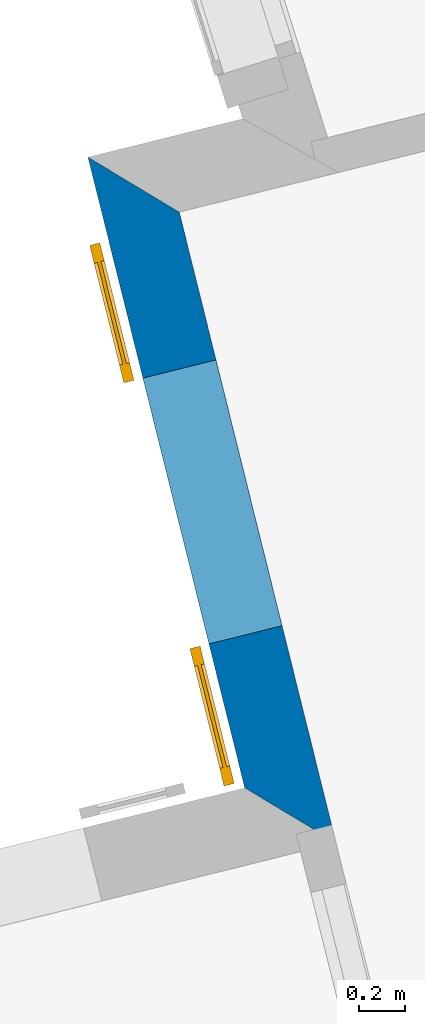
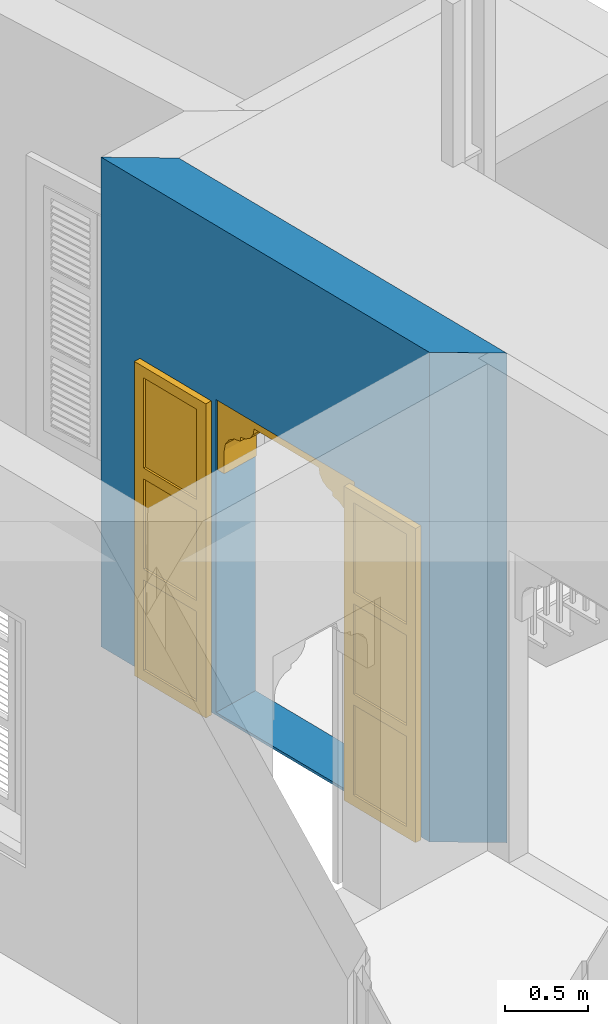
# One storey, part 6 of 14: 1 door, 1 wall, 1 opening.
"""IFC4 building model written with IfcOpenShell, lengths in metres."""

from ifc_helpers import new_model, si_unit, frame, origin, origin_with_axes, place, context, subcontext, project, spatial, polyline, outline, extrude, faceted_brep, source, transform, mapped, material, layer, layer_set, layer_usage, type_object, type_shapes, element, fill, save


model = new_model("IFC4")

# Units and contexts
model_context = context("Model", 3, world=origin_with_axes())
body_context = subcontext(model_context, "Body", "Model", "MODEL_VIEW")
ifc_project = project(units=[si_unit("PLANEANGLEUNIT", "RADIAN"), si_unit("MASSUNIT", "GRAM", prefix="KILO"), si_unit("FORCEUNIT", "NEWTON", prefix="KILO"), si_unit("LENGTHUNIT", "METRE"), si_unit("AREAUNIT", "SQUARE_METRE"), si_unit("VOLUMEUNIT", "CUBIC_METRE")], contexts=[model_context, model_context])

# Site, building, storey
site_placement = place(None, origin_with_axes())
site = spatial("IfcSite", under=ifc_project, at=site_placement, Name="Site plot-0", CompositionType="ELEMENT")
building_placement = place(None, origin_with_axes())
building = spatial("IfcBuilding", under=site, at=building_placement, Name="Building plot-0", CompositionType="ELEMENT")
storey_placement = place(None, origin_with_axes())
storey = spatial("IfcBuildingStorey", under=building, at=storey_placement, Name="plot-0 0", CompositionType="ELEMENT", Elevation=0.0)

# Wall, opening, door
ifc_material = material(Name="Masonry")
ifc_layer = layer(ifc_material, 0.33, ventilated=False)
ifc_layer_set = layer_set([ifc_layer], Name="exterior_0.08_0.25")
ifc_layer_usage = layer_usage(ifc_layer_set, "AXIS2", "POSITIVE", -0.25)
wall_type = type_object("IfcWallType", Name="exterior_0.08_0.25", PredefinedType="SOLIDWALL", material=ifc_layer_set)
wall_placement = place(storey_placement, frame((6.75236149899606, 6.07468236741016, 0.0), z_axis=(0.0, 0.0, 1.0), x_axis=(0.241213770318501, -0.970472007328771, 0.0)))
wall = element("IfcWall", 1, at=wall_placement, inside=storey, type_object=wall_type, material=ifc_layer_usage, Name="exterior", context=body_context, shape_type="SweptSolid", body=[
    extrude(outline(polyline([(0.0799999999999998, 0.0800000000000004), (-0.250000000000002, -0.250000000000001), (2.59744784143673, -0.25), (2.92744784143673, 0.0800000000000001), (0.0799999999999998, 0.0800000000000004)])), origin_with_axes(), (0.0, 0.0, 1.0), 3.6),
])
opening_placement = place(wall_placement, frame((0.747447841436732, 0.0, 0.02)))
opening = element("IfcOpeningElement", 2, at=opening_placement, cuts=wall, Name="My Opening", ObjectType="Opening", context=body_context, shape_type="SweptSolid", body=[
    extrude(outline(polyline([(0.0, -0.27), (1.2, -0.27), (1.2, 1.1), (-3.33066907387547e-16, 1.1), (0.0, -0.27)])), origin_with_axes(), (0.0, 0.0, 1.0), 2.3),
])
door_type = type_object("IfcDoorType", Name="arch-1200x2300", OperationType="SINGLE_SWING_LEFT", PredefinedType="NOTDEFINED")
shared_shape = source(origin(), body_context, "Body", "Brep", [
    faceted_brep([(-0.08, -0.02, 0.08), (-0.08, -0.02, 0.0), (-0.54, -0.02, 0.0), (-0.54, -0.02, 0.08), (-0.62, -0.02, 0.0), (-0.62, -0.02, 0.08), (-0.54, -0.035, 0.08), (-0.08, -0.035, 0.08), (0.0, -0.02, 0.08), (0.0, -0.02, 0.0), (-0.08, -0.066, 0.0), (-0.54, -0.066, 0.0), (-0.62, -0.066, 0.0), (-0.62, -0.066, 0.08), (-0.54, -0.02, 0.743333), (-0.62, -0.02, 0.743333), (-0.54, -0.035, 0.743333), (-0.08, -0.035, 0.743333), (-0.08, -0.02, 0.743333), (0.0, -0.02, 0.743333), (0.0, -0.066, 0.08), (0.0, -0.066, 0.0), (-0.54, -0.066, 0.08), (-0.08, -0.066, 0.08), (-0.62, -0.066, 0.743333), (-0.54, -0.02, 0.823333), (-0.62, -0.02, 0.823333), (0.0, -0.066, 0.743333), (0.0, -0.02, 0.823333), (-0.08, -0.02, 0.823333), (-0.08, -0.051, 0.08), (-0.54, -0.051, 0.08), (-0.54, -0.066, 0.743333), (-0.62, -0.066, 0.823333), (-0.54, -0.02, 1.486667), (-0.62, -0.02, 1.486667), (0.0, -0.066, 0.823333), (-0.08, -0.066, 0.743333), (0.0, -0.02, 1.486667), (-0.08, -0.02, 1.486667), (-0.08, -0.051, 0.743333), (-0.54, -0.051, 0.743333), (-0.54, -0.066, 0.823333), (-0.62, -0.066, 1.486667), (-0.54, -0.035, 0.823333), (-0.08, -0.035, 0.823333), (-0.54, -0.035, 1.486667), (-0.54, -0.02, 1.566667), (-0.62, -0.02, 1.566667), (0.0, -0.066, 1.486667), (-0.08, -0.066, 0.823333), (-0.08, -0.035, 1.486667), (0.0, -0.02, 1.566667), (-0.08, -0.02, 1.566667), (-0.54, -0.066, 1.486667), (-0.62, -0.066, 1.566667), (-0.54, -0.02, 2.23), (-0.62, -0.02, 2.23), (0.0, -0.066, 1.566667), (-0.08, -0.066, 1.486667), (0.0, -0.02, 2.23), (-0.08, -0.02, 2.23), (-0.08, -0.051, 0.823333), (-0.54, -0.051, 0.823333), (-0.54, -0.051, 1.486667), (-0.54, -0.066, 1.566667), (-0.62, -0.066, 2.23), (-0.54, -0.035, 1.566667), (-0.08, -0.035, 1.566667), (-0.54, -0.035, 2.23), (-0.54, -0.02, 2.31), (-0.62, -0.02, 2.31), (0.0, -0.066, 2.23), (-0.08, -0.066, 1.566667), (-0.08, -0.051, 1.486667), (-0.08, -0.035, 2.23), (0.0, -0.02, 2.31), (-0.08, -0.02, 2.31), (-0.54, -0.066, 2.23), (-0.62, -0.066, 2.31), (-0.54, -0.066, 2.31), (0.0, -0.066, 2.31), (-0.08, -0.066, 2.23), (-0.08, -0.066, 2.31), (-0.08, -0.051, 1.566667), (-0.54, -0.051, 1.566667), (-0.54, -0.051, 2.23), (-0.08, -0.051, 2.23), (1.74, -0.02, 0.08), (1.74, -0.02, 0.0), (1.28, -0.02, 0.0), (1.28, -0.02, 0.08), (1.82, -0.02, 0.08), (1.82, -0.02, 0.0), (1.28, -0.035, 0.08), (1.74, -0.035, 0.08), (1.2, -0.02, 0.0), (1.2, -0.02, 0.08), (1.74, -0.066, 0.0), (1.28, -0.066, 0.0), (1.82, -0.066, 0.08), (1.82, -0.066, 0.0), (1.82, -0.02, 0.743333), (1.74, -0.02, 0.743333), (1.74, -0.035, 0.743333), (1.28, -0.035, 0.743333), (1.28, -0.02, 0.743333), (1.2, -0.02, 0.743333), (1.2, -0.066, 0.0), (1.2, -0.066, 0.08), (1.28, -0.066, 0.08), (1.74, -0.066, 0.08), (1.82, -0.066, 0.743333), (1.82, -0.02, 0.823333), (1.74, -0.02, 0.823333), (1.2, -0.066, 0.743333), (1.28, -0.02, 0.823333), (1.2, -0.02, 0.823333), (1.74, -0.051, 0.08), (1.28, -0.051, 0.08), (1.74, -0.066, 0.743333), (1.82, -0.066, 0.823333), (1.82, -0.02, 1.486667), (1.74, -0.02, 1.486667), (1.2, -0.066, 0.823333), (1.28, -0.066, 0.743333), (1.28, -0.02, 1.486667), (1.2, -0.02, 1.486667), (1.28, -0.051, 0.743333), (1.74, -0.051, 0.743333), (1.74, -0.066, 0.823333), (1.82, -0.066, 1.486667), (1.28, -0.035, 0.823333), (1.74, -0.035, 0.823333), (1.74, -0.035, 1.486667), (1.82, -0.02, 1.566667), (1.74, -0.02, 1.566667), (1.2, -0.066, 1.486667), (1.28, -0.066, 0.823333), (1.28, -0.035, 1.486667), (1.28, -0.02, 1.566667), (1.2, -0.02, 1.566667), (1.74, -0.066, 1.486667), (1.82, -0.066, 1.566667), (1.82, -0.02, 2.23), (1.74, -0.02, 2.23), (1.2, -0.066, 1.566667), (1.28, -0.066, 1.486667), (1.28, -0.02, 2.23), (1.2, -0.02, 2.23), (1.74, -0.051, 0.823333), (1.28, -0.051, 0.823333), (1.74, -0.051, 1.486667), (1.74, -0.066, 1.566667), (1.82, -0.066, 2.23), (1.28, -0.035, 1.566667), (1.74, -0.035, 1.566667), (1.74, -0.035, 2.23), (1.82, -0.02, 2.31), (1.74, -0.02, 2.31), (1.2, -0.066, 2.23), (1.28, -0.066, 1.566667), (1.28, -0.051, 1.486667), (1.28, -0.035, 2.23), (1.28, -0.02, 2.31), (1.2, -0.02, 2.31), (1.74, -0.066, 2.23), (1.82, -0.066, 2.31), (1.74, -0.066, 2.31), (1.2, -0.066, 2.31), (1.28, -0.066, 2.23), (1.28, -0.066, 2.31), (1.74, -0.051, 1.566667), (1.28, -0.051, 1.566667), (1.74, -0.051, 2.23), (1.28, -0.051, 2.23), (1.2, 0.03, 1.78), (1.2, 0.03, 1.95), (1.14, 0.03, 1.95), (1.14, 0.03, 1.78), (1.14, 0.3, 1.95), (1.14, 0.3, 1.78), (1.2, 0.03, 2.12), (1.129, 0.03, 2.004), (1.2, 0.3, 1.78), (1.2, 0.3, 1.95), (1.129, 0.3, 2.004), (1.099, 0.03, 2.049), (1.2, 0.3, 2.12), (1.099, 0.3, 2.049), (1.054, 0.03, 2.079), (1.2, 0.3, 2.29), (1.2, 0.03, 2.29), (1.054, 0.3, 2.079), (1.0, 0.03, 2.09), (1.0, 0.03, 2.12), (0.954, 0.03, 2.129), (0.88, 0.3, 2.29), (0.88, 0.03, 2.29), (1.0, 0.3, 2.12), (0.954, 0.3, 2.129), (1.0, 0.3, 2.09), (0.915, 0.03, 2.155), (0.889, 0.3, 2.194), (0.88, 0.3, 2.24), (0.88, 0.03, 2.24), (0.889, 0.03, 2.194), (0.915, 0.3, 2.155), (0.06, 0.03, 1.78), (0.06, 0.03, 1.95), (0.0, 0.03, 1.95), (0.0, 0.03, 1.78), (0.06, 0.3, 1.78), (0.06, 0.3, 1.95), (0.071, 0.03, 2.004), (0.0, 0.03, 2.12), (0.0, 0.3, 1.95), (0.0, 0.3, 1.78), (0.071, 0.3, 2.004), (0.101, 0.03, 2.049), (0.0, 0.3, 2.12), (0.101, 0.3, 2.049), (0.146, 0.03, 2.079), (0.0, 0.03, 2.29), (0.0, 0.3, 2.29), (0.146, 0.3, 2.079), (0.2, 0.03, 2.12), (0.2, 0.03, 2.09), (0.246, 0.03, 2.129), (0.32, 0.03, 2.29), (0.32, 0.3, 2.29), (0.246, 0.3, 2.129), (0.2, 0.3, 2.12), (0.2, 0.3, 2.09), (0.285, 0.03, 2.155), (0.32, 0.3, 2.24), (0.311, 0.3, 2.194), (0.311, 0.03, 2.194), (0.32, 0.03, 2.24), (0.285, 0.3, 2.155)], [[[0, 1, 2, 3]], [[4, 5, 3, 2]], [[0, 3, 6, 7]], [[1, 0, 8, 9]], [[2, 1, 10, 11]], [[5, 4, 12, 13]], [[14, 3, 5, 15]], [[4, 2, 11, 12]], [[3, 14, 16, 6]], [[6, 16, 17, 7]], [[18, 0, 7, 17]], [[0, 18, 19, 8]], [[9, 8, 20, 21]], [[1, 9, 21, 10]], [[22, 11, 10, 23]], [[13, 12, 11, 22]], [[15, 5, 13, 24]], [[25, 14, 15, 26]], [[14, 18, 17, 16]], [[8, 19, 27, 20]], [[28, 19, 18, 29]], [[23, 10, 21, 20]], [[22, 23, 30, 31]], [[22, 32, 24, 13]], [[26, 15, 24, 33]], [[29, 18, 14, 25]], [[34, 25, 26, 35]], [[19, 28, 36, 27]], [[20, 27, 37, 23]], [[38, 28, 29, 39]], [[23, 37, 40, 30]], [[41, 31, 30, 40]], [[32, 22, 31, 41]], [[32, 42, 33, 24]], [[35, 26, 33, 43]], [[29, 25, 44, 45]], [[25, 34, 46, 44]], [[47, 34, 35, 48]], [[28, 38, 49, 36]], [[27, 36, 50, 37]], [[39, 29, 45, 51]], [[52, 38, 39, 53]], [[37, 32, 41, 40]], [[37, 50, 42, 32]], [[42, 54, 43, 33]], [[48, 35, 43, 55]], [[44, 46, 51, 45]], [[34, 39, 51, 46]], [[34, 47, 53, 39]], [[56, 47, 48, 57]], [[38, 52, 58, 49]], [[36, 49, 59, 50]], [[60, 52, 53, 61]], [[42, 50, 62, 63]], [[54, 42, 63, 64]], [[54, 65, 55, 43]], [[57, 48, 55, 66]], [[53, 47, 67, 68]], [[47, 56, 69, 67]], [[70, 56, 57, 71]], [[52, 60, 72, 58]], [[49, 58, 73, 59]], [[50, 59, 74, 62]], [[61, 53, 68, 75]], [[76, 60, 61, 77]], [[64, 63, 62, 74]], [[59, 54, 64, 74]], [[65, 54, 59, 73]], [[65, 78, 66, 55]], [[71, 57, 66, 79]], [[67, 69, 75, 68]], [[56, 61, 75, 69]], [[77, 61, 56, 70]], [[70, 71, 79, 80]], [[60, 76, 81, 72]], [[58, 72, 82, 73]], [[76, 77, 83, 81]], [[65, 73, 84, 85]], [[78, 65, 85, 86]], [[78, 80, 79, 66]], [[77, 70, 80, 83]], [[72, 81, 83, 82]], [[73, 82, 87, 84]], [[86, 85, 84, 87]], [[82, 78, 86, 87]], [[82, 83, 80, 78]], [[88, 89, 90, 91]], [[89, 88, 92, 93]], [[94, 95, 88, 91]], [[96, 97, 91, 90]], [[98, 99, 90, 89]], [[100, 101, 93, 92]], [[102, 92, 88, 103]], [[101, 98, 89, 93]], [[95, 104, 103, 88]], [[94, 105, 104, 95]], [[105, 94, 91, 106]], [[97, 107, 106, 91]], [[108, 109, 97, 96]], [[99, 108, 96, 90]], [[110, 99, 98, 111]], [[111, 98, 101, 100]], [[112, 100, 92, 102]], [[113, 102, 103, 114]], [[104, 105, 106, 103]], [[109, 115, 107, 97]], [[116, 106, 107, 117]], [[109, 108, 99, 110]], [[118, 119, 110, 111]], [[100, 112, 120, 111]], [[121, 112, 102, 113]], [[114, 103, 106, 116]], [[122, 113, 114, 123]], [[115, 124, 117, 107]], [[110, 125, 115, 109]], [[126, 116, 117, 127]], [[119, 128, 125, 110]], [[128, 119, 118, 129]], [[129, 118, 111, 120]], [[112, 121, 130, 120]], [[131, 121, 113, 122]], [[132, 133, 114, 116]], [[133, 134, 123, 114]], [[135, 122, 123, 136]], [[124, 137, 127, 117]], [[125, 138, 124, 115]], [[139, 132, 116, 126]], [[140, 126, 127, 141]], [[128, 129, 120, 125]], [[120, 130, 138, 125]], [[121, 131, 142, 130]], [[143, 131, 122, 135]], [[132, 139, 134, 133]], [[134, 139, 126, 123]], [[126, 140, 136, 123]], [[144, 135, 136, 145]], [[137, 146, 141, 127]], [[138, 147, 137, 124]], [[148, 140, 141, 149]], [[150, 151, 138, 130]], [[152, 150, 130, 142]], [[131, 143, 153, 142]], [[154, 143, 135, 144]], [[155, 156, 136, 140]], [[156, 157, 145, 136]], [[158, 144, 145, 159]], [[146, 160, 149, 141]], [[147, 161, 146, 137]], [[151, 162, 147, 138]], [[163, 155, 140, 148]], [[164, 148, 149, 165]], [[162, 151, 150, 152]], [[162, 152, 142, 147]], [[161, 147, 142, 153]], [[143, 154, 166, 153]], [[167, 154, 144, 158]], [[155, 163, 157, 156]], [[157, 163, 148, 145]], [[159, 145, 148, 164]], [[168, 167, 158, 159]], [[160, 169, 165, 149]], [[161, 170, 160, 146]], [[169, 171, 164, 165]], [[172, 173, 161, 153]], [[174, 172, 153, 166]], [[154, 167, 168, 166]], [[171, 168, 159, 164]], [[170, 171, 169, 160]], [[173, 175, 170, 161]], [[175, 173, 172, 174]], [[175, 174, 166, 170]], [[166, 168, 171, 170]], [[176, 177, 178, 179]], [[180, 181, 179, 178]], [[177, 182, 183, 178]], [[177, 176, 184, 185]], [[181, 184, 176, 179]], [[181, 180, 185, 184]], [[186, 180, 178, 183]], [[182, 187, 183]], [[182, 177, 185, 188]], [[180, 186, 188, 185]], [[189, 186, 183, 187]], [[182, 190, 187]], [[188, 191, 192, 182]], [[188, 186, 189]], [[193, 189, 187, 190]], [[194, 190, 182, 195]], [[182, 192, 196, 195]], [[192, 191, 197, 198]], [[199, 200, 191, 188]], [[188, 189, 193]], [[201, 193, 190, 194]], [[199, 201, 194, 195]], [[200, 199, 195, 196]], [[192, 202, 196]], [[191, 203, 204, 197]], [[192, 198, 205, 206]], [[207, 191, 200]], [[199, 188, 193, 201]], [[207, 200, 196, 202]], [[192, 206, 202]], [[204, 203, 206, 205]], [[203, 191, 207]], [[203, 207, 202, 206]], [[208, 209, 210, 211]], [[209, 208, 212, 213]], [[209, 214, 215, 210]], [[211, 210, 216, 217]], [[208, 211, 217, 212]], [[217, 216, 213, 212]], [[214, 209, 213, 218]], [[214, 219, 215]], [[220, 216, 210, 215]], [[216, 220, 218, 213]], [[219, 214, 218, 221]], [[219, 222, 215]], [[215, 223, 224, 220]], [[221, 218, 220]], [[222, 219, 221, 225]], [[226, 215, 222, 227]], [[226, 228, 223, 215]], [[229, 230, 224, 223]], [[220, 224, 231, 232]], [[225, 221, 220]], [[227, 222, 225, 233]], [[226, 227, 233, 232]], [[228, 226, 232, 231]], [[228, 234, 223]], [[230, 235, 236, 224]], [[237, 238, 229, 223]], [[231, 224, 239]], [[233, 225, 220, 232]], [[234, 228, 231, 239]], [[234, 237, 223]], [[238, 237, 236, 235]], [[239, 224, 236]], [[237, 234, 239, 236]], [[238, 235, 204, 205]], [[235, 230, 197, 204]], [[229, 238, 205, 198]], [[230, 229, 198, 197]]]),
])
type_shapes(door_type, [shared_shape])
door_placement = place(storey_placement, frame((6.67062876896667, 5.2841774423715, 0.02), z_axis=(0.0, 0.0, 1.0), x_axis=(0.289456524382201, -1.16456640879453, 0.0)))
door = element("IfcDoor", 3, at=door_placement, inside=storey, type_object=door_type, Name="circulation sahn door", OverallHeight=2.3, OverallWidth=1.2, context=body_context, shape_type="MappedRepresentation", body=[
    mapped(shared_shape, transform((0.0, 0.0, 0.0), scale=1.0)),
])
fill(opening, door)

save(model, "model.ifc")
